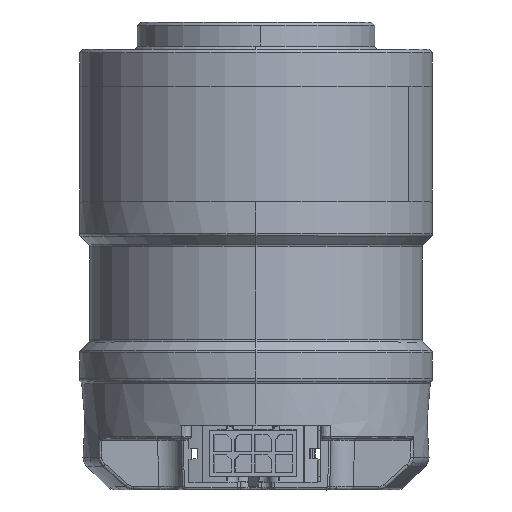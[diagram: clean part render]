
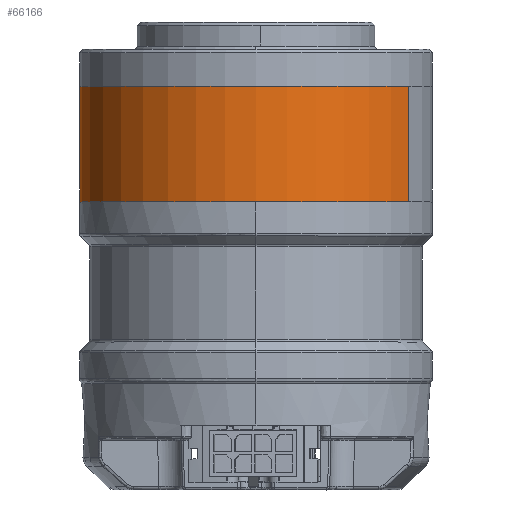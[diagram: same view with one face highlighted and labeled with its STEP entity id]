
A CAD part, top view. The second image highlights one B-rep face of the part: STEP entity #66166.
In plain terms, the highlighted cylindrical face has radius 26 mm (diameter 52 mm), a partial arc.
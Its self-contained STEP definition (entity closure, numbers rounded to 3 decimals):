
#1190 = CARTESIAN_POINT ( 'NONE',  ( 0., 12.5, 0. ) ) ;
#2201 = CIRCLE ( 'NONE', #8950, 26. ) ;
#4198 = EDGE_CURVE ( 'NONE', #48690, #32030, #53003, .T. ) ;
#6870 = DIRECTION ( 'NONE',  ( 0., -1., 0. ) ) ;
#7327 = DIRECTION ( 'NONE',  ( -0.866, 0., -0.5 ) ) ;
#7556 = ORIENTED_EDGE ( 'NONE', *, *, #14293, .F. ) ;
#8272 = EDGE_LOOP ( 'NONE', ( #7556, #71446, #28085, #31117 ) ) ;
#8950 = AXIS2_PLACEMENT_3D ( 'NONE', #53877, #70248, #31166 ) ;
#9500 = CARTESIAN_POINT ( 'NONE',  ( 22.517, 6.5, 13. ) ) ;
#11797 = VERTEX_POINT ( 'NONE', #71174 ) ;
#13472 = CARTESIAN_POINT ( 'NONE',  ( 22.517, 12.5, 13. ) ) ;
#14293 = EDGE_CURVE ( 'NONE', #28331, #11797, #2201, .T. ) ;
#17106 = DIRECTION ( 'NONE',  ( 0., 1., 0. ) ) ;
#20489 = EDGE_CURVE ( 'NONE', #11797, #32030, #44859, .T. ) ;
#21186 = LINE ( 'NONE', #9500, #69256 ) ;
#28085 = ORIENTED_EDGE ( 'NONE', *, *, #4198, .T. ) ;
#28114 = CARTESIAN_POINT ( 'NONE',  ( 22.517, -4.5, 13. ) ) ;
#28331 = VERTEX_POINT ( 'NONE', #28114 ) ;
#31117 = ORIENTED_EDGE ( 'NONE', *, *, #20489, .F. ) ;
#31166 = DIRECTION ( 'NONE',  ( 0.5, 0., -0.866 ) ) ;
#32030 = VERTEX_POINT ( 'NONE', #56645 ) ;
#44110 = AXIS2_PLACEMENT_3D ( 'NONE', #68855, #47310, #7327 ) ;
#44549 = CYLINDRICAL_SURFACE ( 'NONE', #44110, 26. ) ;
#44859 = LINE ( 'NONE', #62078, #51079 ) ;
#47310 = DIRECTION ( 'NONE',  ( 0., 1., 0. ) ) ;
#48045 = FACE_OUTER_BOUND ( 'NONE', #8272, .T. ) ;
#48690 = VERTEX_POINT ( 'NONE', #13472 ) ;
#48700 = AXIS2_PLACEMENT_3D ( 'NONE', #1190, #6870, #51532 ) ;
#51079 = VECTOR ( 'NONE', #17106, 1000. ) ;
#51532 = DIRECTION ( 'NONE',  ( 0.5, 0., -0.866 ) ) ;
#53003 = CIRCLE ( 'NONE', #48700, 26. ) ;
#53877 = CARTESIAN_POINT ( 'NONE',  ( 0., -4.5, 0. ) ) ;
#56645 = CARTESIAN_POINT ( 'NONE',  ( -22.517, 12.5, -13. ) ) ;
#59354 = DIRECTION ( 'NONE',  ( 0., 1., 0. ) ) ;
#62078 = CARTESIAN_POINT ( 'NONE',  ( -22.517, 6.5, -13. ) ) ;
#62750 = EDGE_CURVE ( 'NONE', #28331, #48690, #21186, .T. ) ;
#66166 = ADVANCED_FACE ( 'NONE', ( #48045 ), #44549, .T. ) ;
#68855 = CARTESIAN_POINT ( 'NONE',  ( 0., 6.5, 0. ) ) ;
#69256 = VECTOR ( 'NONE', #59354, 1000. ) ;
#70248 = DIRECTION ( 'NONE',  ( 0., -1., 0. ) ) ;
#71174 = CARTESIAN_POINT ( 'NONE',  ( -22.517, -4.5, -13. ) ) ;
#71446 = ORIENTED_EDGE ( 'NONE', *, *, #62750, .T. ) ;
